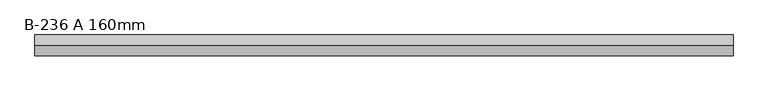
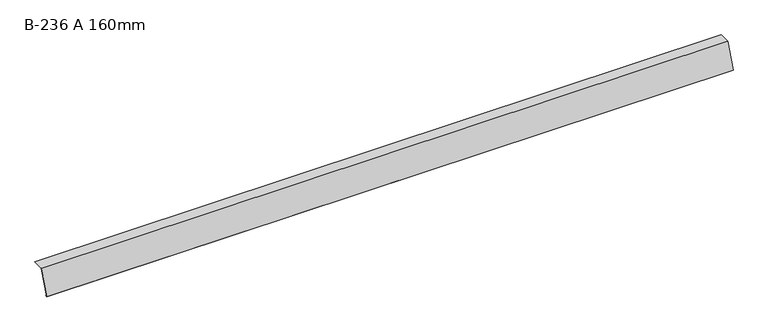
"""IFC4 building model written with IfcOpenShell, lengths in millimetres: proxy geometry, GROVIK_Flashing_Eaves : B-236 A 160mm."""

from ifc_helpers import new_model, si_unit, frame, origin, place, context, project, spatial, polyline, outline, extrude, source, transform, mapped, element, save


def b_236_a_160mm_9b05f503(model_context):
    return source(origin(), model_context, "Body", "SweptSolid", [
        extrude(outline(polyline([(-0.6918582, 0.9880759), (-57.9129574, -148.077984), (-48.2100002, -145.6587651), (-47.9680783, -146.6290608), (-59.5349563, -149.5130074), (-1.3837164, 1.9761518), (64.9551954, 3.1341018), (64.9726478, 2.1342541), (-0.6918582, 0.9880759)])), frame((0.0, 0.0, 0.0), z_axis=(1.0, 0.0, 0.0), x_axis=(0.0, 1.0, 0.0)), (0.0, 0.0, 1.0), 4200.0),
    ])


if __name__ == "__main__":
    model = new_model("IFC4")
    model_context = context("Model", 3, world=origin())
    ifc_project = project(units=[si_unit("LENGTHUNIT", "METRE", prefix="MILLI")], contexts=[model_context])
    site = spatial("IfcSite", under=ifc_project)
    building = spatial("IfcBuilding", under=site)
    placement = place(None, origin())
    b_236_a_160mm_shape = b_236_a_160mm_9b05f503(model_context)
    element("IfcBuildingElementProxy", 1, Name="GROVIK_Flashing_Eaves : B-236 A 160mm", ObjectType="GROVIK_Flashing_Eaves : B-236 A 160mm", at=placement, inside=building, context=model_context, shape_type="MappedRepresentation", body=[
        mapped(b_236_a_160mm_shape, transform((0.0, 0.0, 0.0), x_axis=(1.0, 0.0, 0.0), y_axis=(0.0, 1.0, 0.0), z_axis=(0.0, 0.0, 1.0))),
    ])
    save(model, "model.ifc")
